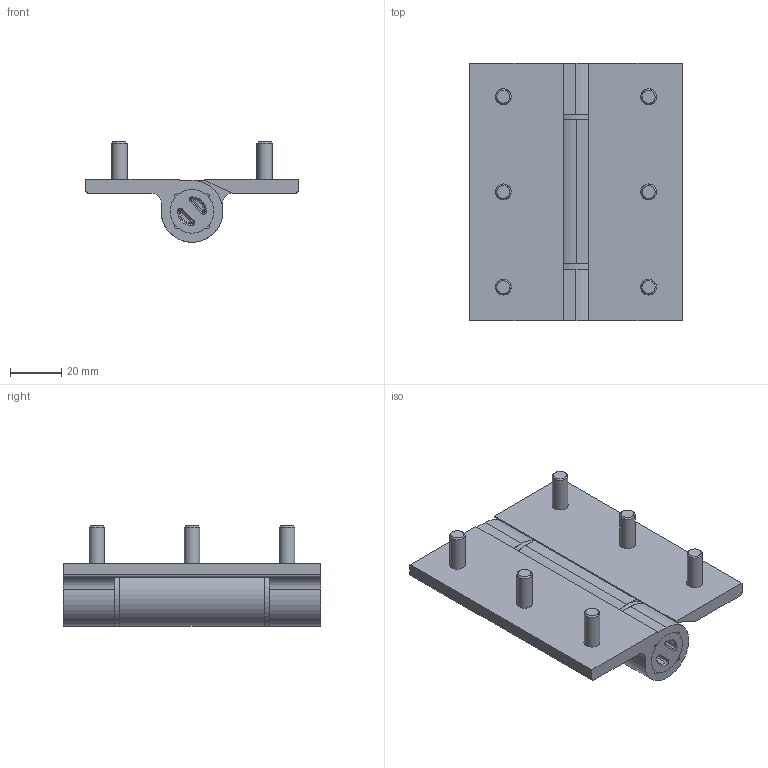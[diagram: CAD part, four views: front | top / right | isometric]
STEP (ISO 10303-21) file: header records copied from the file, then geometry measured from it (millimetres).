
FILE_DESCRIPTION(/* description */ ('Unknown'),/* implementation_level */ '2;1');
FILE_NAME(/* name */ '6876.03',/* time_stamp */ '2023-10-11T14:14:03+02:00',/* author */ ('Unknown'),/* organization */ ('Unknown'),/* preprocessor_version */ 'ST-DEVELOPER v16.7',/* originating_system */ 'DEX',/* authorisation */ $);
FILE_SCHEMA (('AUTOMOTIVE_DESIGN {1 0 10303 214 3 1 1}'));
Length unit declared in the file: millimetre
Products named in the file (9): 6876.03; 6876_0; 6876; 6876_1; 6876_2; 6876_3; 6876_4; 6876_5; Part1
Assembly tree (13 placements, depth 2):
  6876.03
    6876_0
    6876
    6876_1
    6876_2
    6876_3
    6876_4
    6876_5
    Part1  x6
Bounding box: 82.5 x 100 x 38.99 mm (x, y, z)
Volume: 83746.7 mm3; surface area: 41550.6 mm2
Topology: 13 solids, 15 shells, 183 faces, 390 edges, 242 vertices
Faces by surface type: plane 72, cylinder 65, cone 30, torus 15, sphere 1
Full cylindrical faces by diameter (mm): 6 x6, 6.2 x6, 13 x12, 17 x3, 24 x2
Entity records: 4365 total; most frequent: CARTESIAN_POINT 774, DIRECTION 751, ORIENTED_EDGE 598, AXIS2_PLACEMENT_3D 315, EDGE_CURVE 299, EDGE_LOOP 206, FACE_BOUND 206, VERTEX_POINT 197
